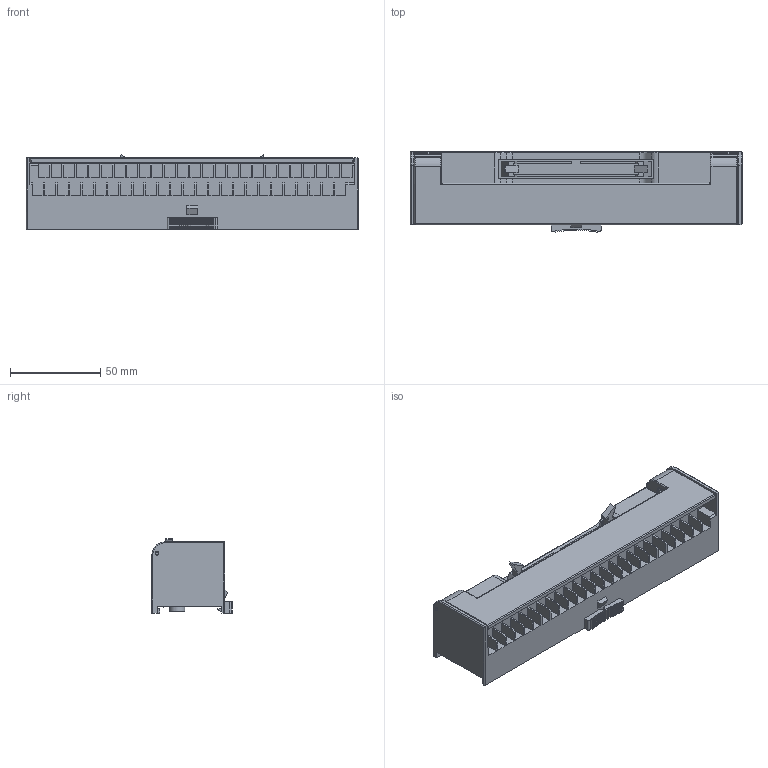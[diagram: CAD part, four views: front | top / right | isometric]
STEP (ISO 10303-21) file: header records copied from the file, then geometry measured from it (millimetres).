
FILE_DESCRIPTION(/* description */ (''),/* implementation_level */ '2;1');
FILE_NAME(/* name */ 'XTB-50H.stp',/* time_stamp */ '2017-09-04T15:36:26+09:00',/* author */ (''),/* organization */ (''),/* preprocessor_version */ 'ST-DEVELOPER v16',/* originating_system */ 'SIEMENS PLM Software NX 11.0',/* authorisation */ '');
FILE_SCHEMA (('AP203_CONFIGURATION_CONTROLLED_3D_DESIGN_OF_MECHANICAL_PARTS_AND_ASSEMBLIES_MIM_LF { 1 0 10303 403 2 1 2}'));
Length unit declared in the file: millimetre
Products named in the file (1): ksle21583784qhh9
Bounding box: 184.2 x 44.56 x 41.29 mm (x, y, z)
Volume: 190063.6 mm3; surface area: 56911.4 mm2
Topology: 1 solids, 1 shells, 648 faces, 1783 edges, 1154 vertices
Faces by surface type: plane 472, cylinder 120, torus 38, bspline 10, sphere 8
Full cylindrical faces by diameter (mm): 1.5 x2, 2 x2, 2.2 x2, 3.5 x4, 4.5 x4, 8 x2, 8.5 x2
Entity records: 24861 total; most frequent: CARTESIAN_POINT 4012, ORIENTED_EDGE 3480, DIRECTION 3258, EDGE_CURVE 1740, LINE 1428, VECTOR 1428, VERTEX_POINT 1138, AXIS2_PLACEMENT_3D 915
